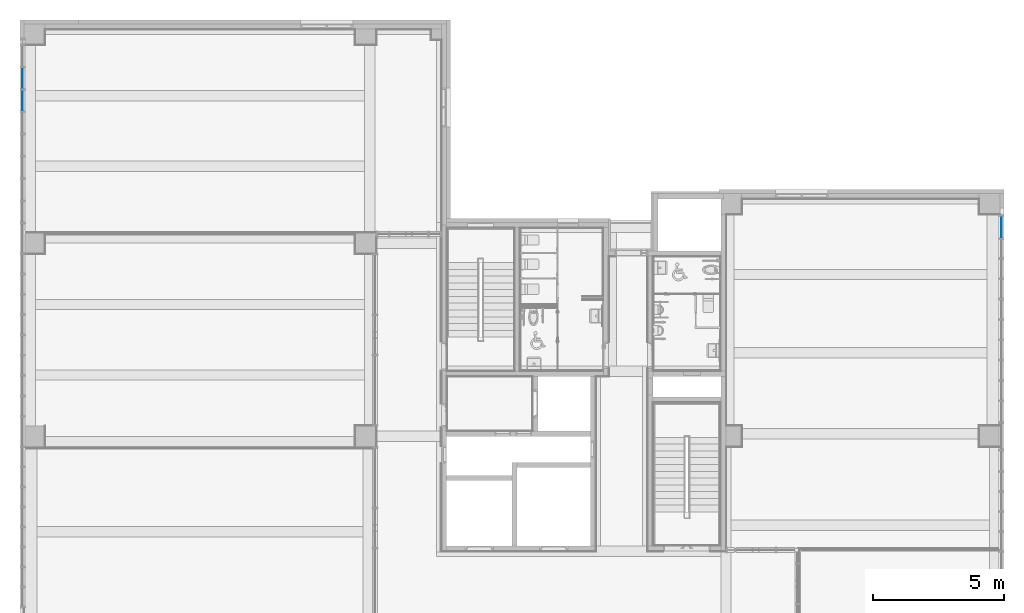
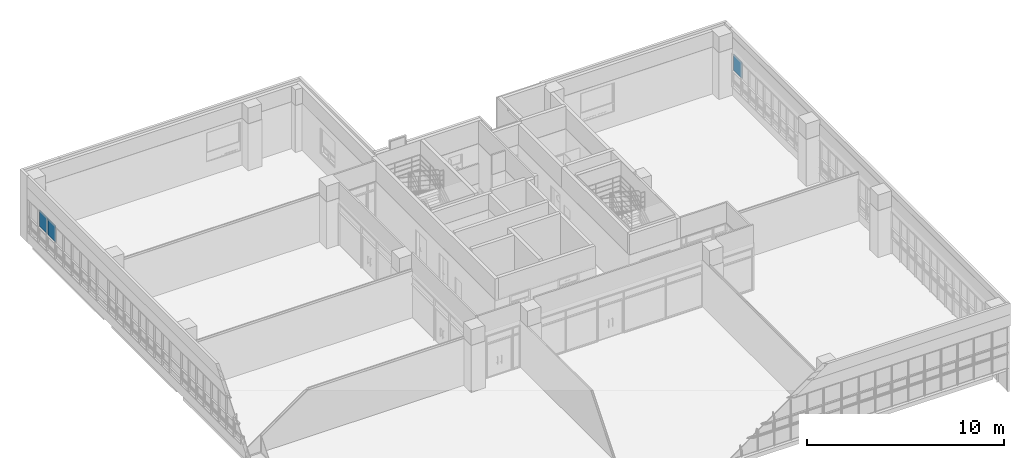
# One storey, part 33 of 81: 3 plates, 2 elements without a shape of their own.
"""IFC2X3 building model written with IfcOpenShell, lengths in millimetres."""

from ifc_helpers import new_model, entity, si_unit, converted_unit, derived_unit, direction, frame, origin, origin_2d_with_axis, place, context, subcontext, project, spatial, rectangle, extrude, source, transform, mapped, material, type_object, type_shapes, element, aggregate, save


model = new_model("IFC2X3")

# Units and contexts
model_context = context("Model", 3, precision=0.01, world=origin(), true_north=direction((6.123031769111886e-17, 1.0)))
body_context = subcontext(model_context, "Body", "Model", "MODEL_VIEW")
ifc_project = project(units=[si_unit("LENGTHUNIT", "METRE", prefix="MILLI"), si_unit("AREAUNIT", "SQUARE_METRE"), si_unit("VOLUMEUNIT", "CUBIC_METRE"), converted_unit("PLANEANGLEUNIT", "DEGREE", entity("IfcRatioMeasure", 0.017453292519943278), si_unit("PLANEANGLEUNIT", "RADIAN"), dimensions=[0, 0, 0, 0, 0, 0, 0]), si_unit("MASSUNIT", "GRAM", prefix="KILO"), derived_unit("MASSDENSITYUNIT", [(si_unit("MASSUNIT", "GRAM", prefix="KILO"), 1), (si_unit("LENGTHUNIT", "METRE"), -3)]), derived_unit("MOMENTOFINERTIAUNIT", [(si_unit("LENGTHUNIT", "METRE"), 4)]), si_unit("TIMEUNIT", "SECOND"), si_unit("FREQUENCYUNIT", "HERTZ"), si_unit("THERMODYNAMICTEMPERATUREUNIT", "DEGREE_CELSIUS"), derived_unit("THERMALTRANSMITTANCEUNIT", [(si_unit("MASSUNIT", "GRAM", prefix="KILO"), 1), (si_unit("THERMODYNAMICTEMPERATUREUNIT", "KELVIN"), -1), (si_unit("TIMEUNIT", "SECOND"), -3)]), derived_unit("VOLUMETRICFLOWRATEUNIT", [(si_unit("LENGTHUNIT", "METRE"), 3), (si_unit("TIMEUNIT", "SECOND"), -1)]), derived_unit("MASSFLOWRATEUNIT", [(si_unit("MASSUNIT", "GRAM", prefix="KILO"), 1), (si_unit("TIMEUNIT", "SECOND"), -1)]), derived_unit("ROTATIONALFREQUENCYUNIT", [(si_unit("TIMEUNIT", "SECOND"), -1)]), si_unit("ELECTRICCURRENTUNIT", "AMPERE"), si_unit("ELECTRICVOLTAGEUNIT", "VOLT"), si_unit("POWERUNIT", "WATT"), si_unit("FORCEUNIT", "NEWTON", prefix="KILO"), si_unit("ILLUMINANCEUNIT", "LUX"), si_unit("LUMINOUSFLUXUNIT", "LUMEN"), si_unit("LUMINOUSINTENSITYUNIT", "CANDELA"), derived_unit("USERDEFINED", [(si_unit("MASSUNIT", "GRAM", prefix="KILO"), -1), (si_unit("LENGTHUNIT", "METRE"), -2), (si_unit("TIMEUNIT", "SECOND"), 3), (si_unit("LUMINOUSFLUXUNIT", "LUMEN"), 1)]), derived_unit("SOUNDPOWERUNIT", [(si_unit("MASSUNIT", "GRAM", prefix="KILO"), 1), (si_unit("LENGTHUNIT", "METRE"), 2), (si_unit("TIMEUNIT", "SECOND"), -3)]), derived_unit("SOUNDPRESSUREUNIT", [(si_unit("MASSUNIT", "GRAM", prefix="KILO"), 1), (si_unit("LENGTHUNIT", "METRE"), -1), (si_unit("TIMEUNIT", "SECOND"), -2)]), derived_unit("LINEARVELOCITYUNIT", [(si_unit("LENGTHUNIT", "METRE"), 1), (si_unit("TIMEUNIT", "SECOND"), -1)]), si_unit("PRESSUREUNIT", "PASCAL"), derived_unit("USERDEFINED", [(si_unit("LENGTHUNIT", "METRE"), -2), (si_unit("MASSUNIT", "GRAM", prefix="KILO"), 1), (si_unit("TIMEUNIT", "SECOND"), -2)]), derived_unit("LINEARFORCEUNIT", [(si_unit("MASSUNIT", "GRAM", prefix="KILO"), 1), (si_unit("LENGTHUNIT", "METRE"), 1), (si_unit("TIMEUNIT", "SECOND"), -2), (si_unit("LENGTHUNIT", "METRE"), -1)]), derived_unit("PLANARFORCEUNIT", [(si_unit("MASSUNIT", "GRAM", prefix="KILO"), 1), (si_unit("LENGTHUNIT", "METRE"), 1), (si_unit("TIMEUNIT", "SECOND"), -2), (si_unit("LENGTHUNIT", "METRE"), -2)])], contexts=[model_context])

# Site, building, storey
site_placement = place(None, frame((-14167.972527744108, -657.2125860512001, 0.0)))
site = spatial("IfcSite", under=ifc_project, at=site_placement, Name="Default", CompositionType="ELEMENT")
building_placement = place(site_placement, origin())
building = spatial("IfcBuilding", under=site, at=building_placement, Name="Sample Building", CompositionType="ELEMENT")
storey_placement = place(building_placement, frame((0.0, 0.0, 13400.0)))
storey = spatial("IfcBuildingStorey", under=building, at=storey_placement, Name="지상 4층", CompositionType="ELEMENT", Elevation=13400.00000000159)

# Curtain wall, plates
curtain_wall_type = type_object("IfcCurtainWallType", Name="커튼월:CW112-스테인리스 스틸 커튼월", PredefinedType="NOTDEFINED")
curtain_wall_1_placement = place(storey_placement, frame((0.0, 0.0, -13400.0)))
curtain_wall_1 = element("IfcCurtainWall", 1, at=curtain_wall_1_placement, inside=storey, type_object=curtain_wall_type, Name="커튼월:CW112-스테인리스 스틸 커튼월", ObjectType="커튼월:CW112-스테인리스 스틸 커튼월")
ifc_material = material(Name="KBIMS-로이유리(코팅)")
plate_type_1 = type_object("IfcPlateType", Name="CW300-THK24.Low-e coating glass:CW300-THK24.Low-e coating glass", PredefinedType="CURTAIN_PANEL", material=ifc_material)
shared_shape_1 = source(origin(), body_context, "Body", "SweptSolid", [
    extrude(rectangle(XDim=803.5000000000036, YDim=24.000000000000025, at=origin_2d_with_axis()), frame((0.0, 0.0, 0.0), z_axis=(0.0, 0.0, 1.0), x_axis=(-1.0, 0.0, 0.0)), (0.0, 0.0, 1.0), 1024.9999999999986),
])
type_shapes(plate_type_1, [shared_shape_1])
plate_1_placement = place(curtain_wall_1_placement, frame((14018.570555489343, 33673.56770709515, 15025.0), z_axis=(0.0, 0.0, 1.0), x_axis=(0.0, -1.0, 0.0)))
plate_1 = element("IfcPlate", 2, at=plate_1_placement, type_object=plate_type_1, material=ifc_material, Name="CW300-THK24.Low-e coating glass:CW300-THK24.Low-e coating glass", ObjectType="CW300-THK24.Low-e coating glass:CW300-THK24.Low-e coating glass", context=body_context, shape_type="MappedRepresentation", body=[
    mapped(shared_shape_1, transform((0.0, 0.0, 0.0), scale=1.0)),
])
plate_2_placement = place(curtain_wall_1_placement, frame((14018.570555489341, 32820.06770709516, 15025.0), z_axis=(0.0, 0.0, 1.0), x_axis=(0.0, -1.0, 0.0)))
plate_2 = element("IfcPlate", 3, at=plate_2_placement, type_object=plate_type_1, material=ifc_material, Name="CW300-THK24.Low-e coating glass:CW300-THK24.Low-e coating glass", ObjectType="CW300-THK24.Low-e coating glass:CW300-THK24.Low-e coating glass", context=body_context, shape_type="MappedRepresentation", body=[
    mapped(shared_shape_1, transform((0.0, 0.0, 0.0), scale=1.0)),
])
aggregate(curtain_wall_1, [plate_1, plate_2])

# Curtain wall, plate
curtain_wall_2_placement = place(storey_placement, frame((0.0, 0.0, -13400.0)))
curtain_wall_2 = element("IfcCurtainWall", 4, at=curtain_wall_2_placement, inside=storey, type_object=curtain_wall_type, Name="커튼월:CW112-스테인리스 스틸 커튼월", ObjectType="커튼월:CW112-스테인리스 스틸 커튼월")
plate_type_2 = type_object("IfcPlateType", Name="CW300-THK24.Low-e coating glass:CW300-THK24.Low-e coating glass", PredefinedType="CURTAIN_PANEL", material=ifc_material)
shared_shape_2 = source(origin(), body_context, "Body", "SweptSolid", [
    extrude(rectangle(XDim=24.000000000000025, YDim=840.5004098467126, at=origin_2d_with_axis()), frame((0.0, 0.0, 0.0), z_axis=(0.0, 0.0, 1.0), x_axis=(0.0, 1.0, 0.0)), (0.0, 0.0, 1.0), 1025.000000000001),
])
type_shapes(plate_type_2, [shared_shape_2])
plate_3_placement = place(curtain_wall_2_placement, frame((51517.96382893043, 27968.962500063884, 15025.0), z_axis=(0.0, 0.0, 1.0), x_axis=(0.0, -1.0, 0.0)))
plate_3 = element("IfcPlate", 5, at=plate_3_placement, type_object=plate_type_2, material=ifc_material, Name="CW300-THK24.Low-e coating glass:CW300-THK24.Low-e coating glass", ObjectType="CW300-THK24.Low-e coating glass:CW300-THK24.Low-e coating glass", context=body_context, shape_type="MappedRepresentation", body=[
    mapped(shared_shape_2, transform((0.0, 0.0, 0.0), scale=1.0)),
])
aggregate(curtain_wall_2, [plate_3])

save(model, "model.ifc")
